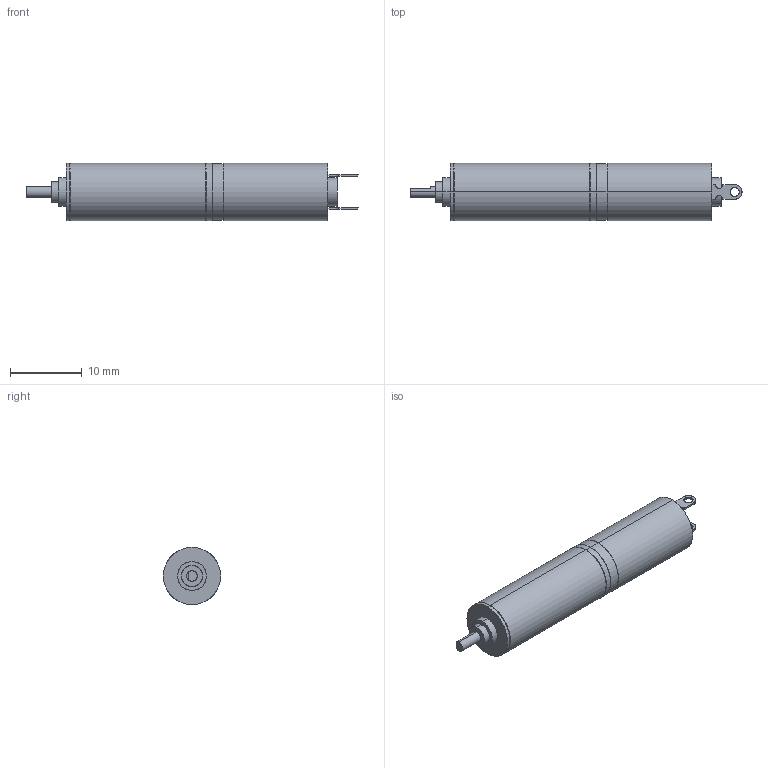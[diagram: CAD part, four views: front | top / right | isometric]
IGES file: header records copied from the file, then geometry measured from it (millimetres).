
Start section: SolidWorks IGES FILE using analytic representation for surfaces
Global section: file name: Y:\CONTENTCENTRAL\8mm motor\cache\8MDEFAU06062003175351.igs; native system: SolidWorks 2003 by SolidWorks Corporation; preprocessor: Version 5.3; author: PartStream; date: 030606.180202; units: inch
Bounding box: 46.23 x 7.98 x 7.98 mm (x, y, z)
Surface area: 1102 mm2 (no closed solid volume)
Topology: 0 solids, 0 shells, 58 faces, 942 edges, 942 vertices
Faces by surface type: revolution 34, bspline 24
